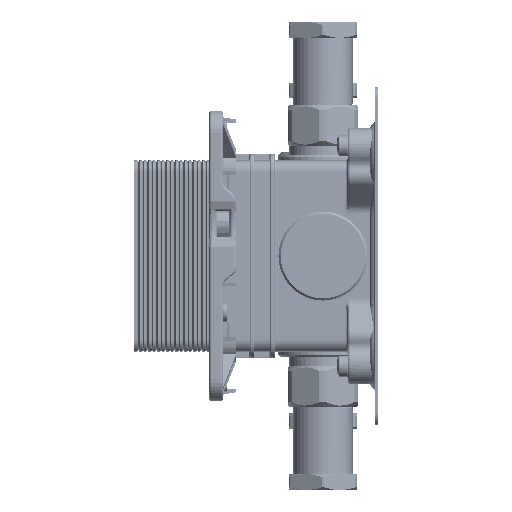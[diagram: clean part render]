
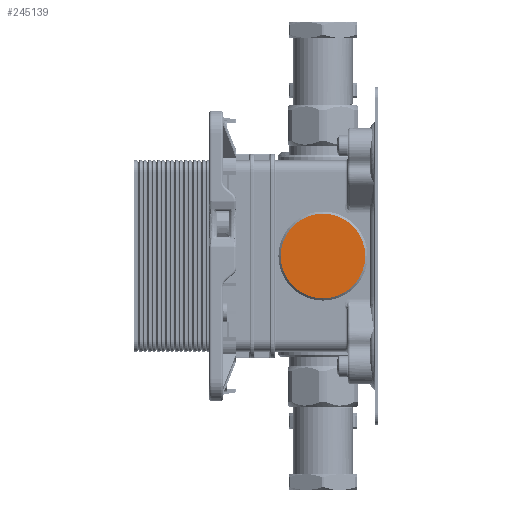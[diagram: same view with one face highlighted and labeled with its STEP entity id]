
A CAD part, left-side view. The second image highlights one B-rep face of the part: STEP entity #245139.
In plain terms, the highlighted planar face has unit normal (-1, 0, 0).
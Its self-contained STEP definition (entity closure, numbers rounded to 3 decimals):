
#86249=CARTESIAN_POINT('',(-176.007,24.5,-0.053));
#86250=DIRECTION('',(-1.,0.,0.));
#86251=DIRECTION('',(0.,0.,-1.));
#86252=AXIS2_PLACEMENT_3D('',#86249,#86250,#86251);
#86263=CARTESIAN_POINT('',(-176.007,24.5,-0.053));
#86264=DIRECTION('',(-1.,0.,0.));
#86265=DIRECTION('',(0.,0.,1.));
#86266=AXIS2_PLACEMENT_3D('',#86263,#86264,#86265);
#98285=CARTESIAN_POINT('',(-176.01,24.5,
18.747));
#98287=VERTEX_POINT('',#98285);
#98289=CARTESIAN_POINT('',(-176.004,24.5,
-18.853));
#98291=VERTEX_POINT('',#98289);
#245130=CARTESIAN_POINT('',(-176.007,24.5,-0.053));
#245131=DIRECTION('',(-1.,0.,0.));
#245132=DIRECTION('',(0.,0.,-1.));
#245133=AXIS2_PLACEMENT_3D('',#245130,#245131,#245132);
#245134=PLANE('',#245133);
#245135=ORIENTED_EDGE('',*,*,#245124,.F.);
#245136=ORIENTED_EDGE('',*,*,#245110,.F.);
#245137=EDGE_LOOP('',(#245135,#245136));
#245138=FACE_OUTER_BOUND('',#245137,.F.);
#245139=ADVANCED_FACE('',(#245138),#245134,.T.);
#86253=CIRCLE('',#86252,18.8);
#86267=CIRCLE('',#86266,18.8);
#245110=EDGE_CURVE('',#98291,#98287,#86253,.T.);
#245124=EDGE_CURVE('',#98287,#98291,#86267,.T.);
